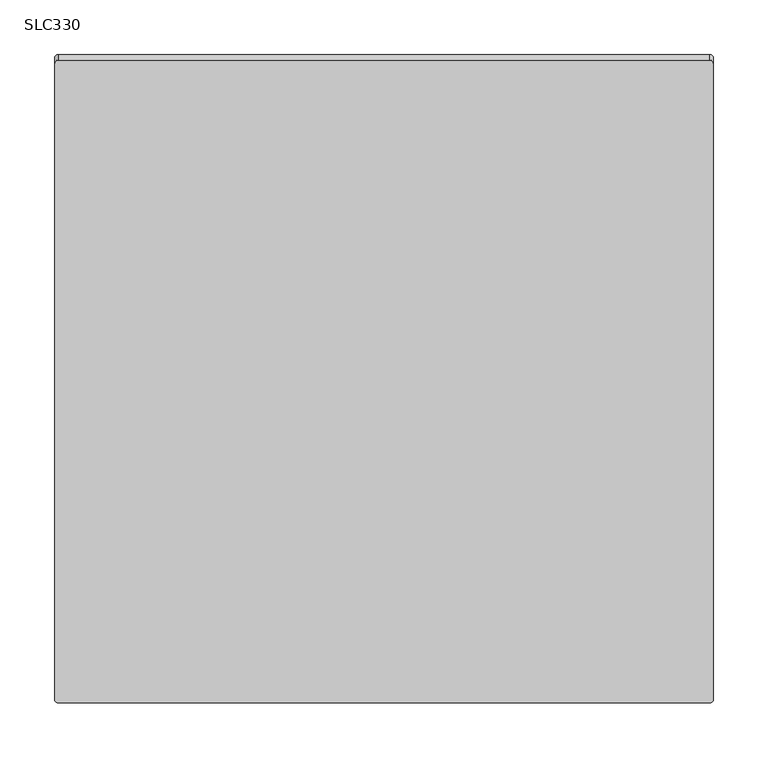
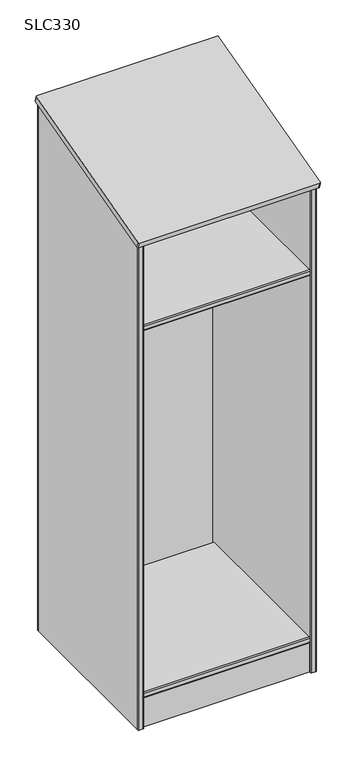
"""IFC4 building model written with IfcOpenShell, lengths in millimetres: furniture geometry, Stance_HC-Lotus-Wardrobe : SLC330."""

import ifcopenshell
import ifcopenshell.guid

model = None  # the IFC model being written
_history = None  # IfcOwnerHistory: only IFC2X3 demands one
_inside = {}  # id of a spatial element -> (the spatial element, [elements in it])
_under = {}  # id of a project, library or spatial element -> (it, [spatial elements below it])
_declared = {}  # id of a project -> (the project, [libraries it declares])
_typed = {}  # id of a type object -> (the type object, [elements of that type])
_made_of = {}  # id of a material, layer set ... -> (it, [elements and type objects made of it])


def new_model(schema):
    """Start an empty IFC model of exactly this schema.

    Asked for "IFC4X3", IfcOpenShell would pick the latest addendum, in which some entities
    have other attributes; the version numbers below select the first issue.
    IFC2X3 requires an IfcOwnerHistory on every rooted entity: one is made here for all.
    """
    global model, _history
    if schema == "IFC4X3":
        model = ifcopenshell.file(schema_version=(4, 3, 0, 0))
    else:
        model = ifcopenshell.file(schema=schema)
    _inside.clear()
    _under.clear()
    _declared.clear()
    _typed.clear()
    _made_of.clear()
    _history = None
    if model.schema == "IFC2X3":
        org = make("IfcOrganization", Name="unknown")
        user = make(
            "IfcPersonAndOrganization",
            ThePerson=make("IfcPerson", FamilyName="unknown"),
            TheOrganization=org,
        )
        app = make(
            "IfcApplication",
            ApplicationDeveloper=org,
            Version="unknown",
            ApplicationFullName="unknown",
            ApplicationIdentifier="unknown",
        )
        _history = make(
            "IfcOwnerHistory",
            OwningUser=user,
            OwningApplication=app,
            ChangeAction="ADDED",
            CreationDate=0,
        )
    return model


def make(cls, **values):
    """One entity of the class cls with the attributes given. An attribute that is None is left unset."""
    return model.create_entity(
        cls, **{name: value for name, value in values.items() if value is not None}
    )


def rooted(cls, **values):
    """An entity with a GlobalId (a new one), such as an element, a storey or a relation."""
    return make(cls, GlobalId=ifcopenshell.guid.new(), OwnerHistory=_history, **values)


def si_unit(unit_type, name, prefix=None):
    """IfcSIUnit, for example si_unit("LENGTHUNIT", "METRE", prefix="MILLI")."""
    return make("IfcSIUnit", UnitType=unit_type, Prefix=prefix, Name=name)


def assignment(units):
    """IfcUnitAssignment: the units of a project."""
    return None if units is None else make("IfcUnitAssignment", Units=units)


def point(xyz):
    """IfcCartesianPoint."""
    return None if xyz is None else make("IfcCartesianPoint", Coordinates=xyz)


def direction(xyz):
    """IfcDirection."""
    return None if xyz is None else make("IfcDirection", DirectionRatios=xyz)


def frame(location, z_axis=None, x_axis=None):
    """IfcAxis2Placement3D, a coordinate frame: its origin and axes. An axis left out is left unset."""
    return make(
        "IfcAxis2Placement3D",
        Location=point(location),
        Axis=direction(z_axis),
        RefDirection=direction(x_axis),
    )


def frame_2d(location, x_axis=None):
    """IfcAxis2Placement2D, a coordinate frame in the plane: its origin and x axis."""
    return make(
        "IfcAxis2Placement2D", Location=point(location), RefDirection=direction(x_axis)
    )


def origin():
    """The frame at (0, 0, 0) with its axes left unset."""
    return frame((0.0, 0.0, 0.0))


def origin_with_axes():
    """The frame at (0, 0, 0) with the z axis (0, 0, 1) and the x axis (1, 0, 0) written out."""
    return frame((0.0, 0.0, 0.0), z_axis=(0.0, 0.0, 1.0), x_axis=(1.0, 0.0, 0.0))


def place(relative_to, where):
    """IfcLocalPlacement: puts the frame where relative to a parent placement (None: the world)."""
    return make(
        "IfcLocalPlacement", PlacementRelTo=relative_to, RelativePlacement=where
    )


def context(
    kind, dimensions, precision=None, world=None, true_north=None, identifier=None
):
    """IfcGeometricRepresentationContext, for example the 3D "Model" context."""
    return make(
        "IfcGeometricRepresentationContext",
        ContextIdentifier=identifier,
        ContextType=kind,
        CoordinateSpaceDimension=dimensions,
        Precision=precision,
        WorldCoordinateSystem=world,
        TrueNorth=true_north,
    )


def project(units=None, contexts=None):
    """IfcProject with its units and contexts."""
    return rooted(
        "IfcProject",
        Name="project",
        RepresentationContexts=contexts,
        UnitsInContext=assignment(units),
    )


def spatial(cls, under=None, at=None, **own):
    """A site, building, storey or space (cls), placed at a placement, below another one or the project."""
    s = rooted(cls, ObjectPlacement=at, **own)
    if under is not None:
        _under.setdefault(under.id(), (under, []))[1].append(s)
    return s


def polyline(points):
    """IfcPolyline through the points."""
    return make("IfcPolyline", Points=[point(p) for p in points])


def circle_curve(where, radius):
    """IfcCircle in the frame where."""
    return make("IfcCircle", Position=where, Radius=radius)


def ellipse_curve(where, semi_axis1, semi_axis2):
    """IfcEllipse in the frame where."""
    return make(
        "IfcEllipse", Position=where, SemiAxis1=semi_axis1, SemiAxis2=semi_axis2
    )


def trimmed(basis, trim1, trim2, sense, master):
    """IfcTrimmedCurve: the piece of a basis curve between two trims."""
    return make(
        "IfcTrimmedCurve",
        BasisCurve=basis,
        Trim1=trim1,
        Trim2=trim2,
        SenseAgreement=sense,
        MasterRepresentation=master,
    )


def segment(curve, same_sense, transition):
    """IfcCompositeCurveSegment."""
    return make(
        "IfcCompositeCurveSegment",
        Transition=transition,
        SameSense=same_sense,
        ParentCurve=curve,
    )


def composite_curve(segments, self_intersect=None):
    """IfcCompositeCurve: segments joined end to end."""
    return make("IfcCompositeCurve", Segments=segments, SelfIntersect=self_intersect)


def outline(outer, holes=None, kind="AREA"):
    """IfcArbitraryClosedProfileDef: a profile drawn as a closed curve; with holes, ...WithVoids."""
    if holes is None:
        return make("IfcArbitraryClosedProfileDef", ProfileType=kind, OuterCurve=outer)
    return make(
        "IfcArbitraryProfileDefWithVoids",
        ProfileType=kind,
        OuterCurve=outer,
        InnerCurves=holes,
    )


def extrude(swept, where, along, depth):
    """IfcExtrudedAreaSolid: the profile swept, set in the frame where, extruded along a direction by depth."""
    return make(
        "IfcExtrudedAreaSolid",
        SweptArea=swept,
        Position=where,
        ExtrudedDirection=direction(along),
        Depth=depth,
    )


def shape(context_of_items, identifier, shape_type, items):
    """IfcShapeRepresentation: the items that make up one representation, for example the "Body"."""
    return make(
        "IfcShapeRepresentation",
        ContextOfItems=context_of_items,
        RepresentationIdentifier=identifier,
        RepresentationType=shape_type,
        Items=items,
    )


def source(mapping_origin, context_of_items, identifier, shape_type, items):
    """IfcRepresentationMap: a shape defined once, which mapped items show again and again."""
    return make(
        "IfcRepresentationMap",
        MappingOrigin=mapping_origin,
        MappedRepresentation=shape(context_of_items, identifier, shape_type, items),
    )


def transform(
    local_origin,
    x_axis=None,
    y_axis=None,
    z_axis=None,
    scale=None,
    scale2=None,
    scale3=None,
    uniform=True,
):
    """IfcCartesianTransformationOperator3D, or its non-uniform kind. x_axis, y_axis, z_axis: its Axis1, 2, 3."""
    if uniform:
        return make(
            "IfcCartesianTransformationOperator3D",
            Axis1=direction(x_axis),
            Axis2=direction(y_axis),
            LocalOrigin=point(local_origin),
            Scale=scale,
            Axis3=direction(z_axis),
        )
    return make(
        "IfcCartesianTransformationOperator3DnonUniform",
        Axis1=direction(x_axis),
        Axis2=direction(y_axis),
        LocalOrigin=point(local_origin),
        Scale=scale,
        Axis3=direction(z_axis),
        Scale2=scale2,
        Scale3=scale3,
    )


def mapped(mapping_source, mapping_target):
    """IfcMappedItem: shows the shape of a source again, moved by a transform."""
    return make(
        "IfcMappedItem", MappingSource=mapping_source, MappingTarget=mapping_target
    )


def made_of(thing, what):
    """Note that an element or type object is made of a material, layer set ...; save() writes the relation."""
    if what is not None:
        _made_of.setdefault(what.id(), (what, []))[1].append(thing)
    return thing


def element(
    cls,
    number,
    at=None,
    inside=None,
    cuts=None,
    type_object=None,
    material=None,
    context=None,
    identifier="Body",
    shape_type=None,
    held_by="IfcProductDefinitionShape",
    body=None,
    shapes=None,
    **own,
):
    """One element of the class cls, such as IfcWall. Its Tag is "e" and its number.

    at: its placement. inside: the storey or other place that contains it. cuts: it is an
    opening in that element (IfcRelVoidsElement). A single representation is given by context,
    identifier, shape_type and body (its items); several are given by shapes. held_by: the class
    of the entity that holds the representations. save() writes the other relations.
    """
    e = rooted(cls, Tag="e%d" % number, ObjectPlacement=at, **own)
    if body is not None:
        shapes = [shape(context, identifier, shape_type, body)]
    if shapes is not None:
        e.Representation = make(held_by, Representations=shapes)
    if inside is not None:
        _inside.setdefault(inside.id(), (inside, []))[1].append(e)
    if cuts is not None:
        rooted(
            "IfcRelVoidsElement", RelatingBuildingElement=cuts, RelatedOpeningElement=e
        )
    if type_object is not None:
        _typed.setdefault(type_object.id(), (type_object, []))[1].append(e)
    return made_of(e, material)


def aggregate(whole, parts):
    """IfcRelAggregates: a whole, such as a stair, and the parts it consists of."""
    return rooted("IfcRelAggregates", RelatingObject=whole, RelatedObjects=parts)


def save(model, path):
    """Write the relations noted so far, then the file.

    IfcRelAggregates (storeys below a building ...), IfcRelContainedInSpatialStructure (elements
    in a storey), IfcRelDefinesByType, IfcRelAssociatesMaterial and IfcRelDeclares: one each for
    every whole, place, type object, material and project.
    """
    for whole, parts in _under.values():
        aggregate(whole, parts)
    for where, things in _inside.values():
        rooted(
            "IfcRelContainedInSpatialStructure",
            RelatedElements=things,
            RelatingStructure=where,
        )
    for kind, things in _typed.values():
        rooted("IfcRelDefinesByType", RelatedObjects=things, RelatingType=kind)
    for what, things in _made_of.values():
        rooted("IfcRelAssociatesMaterial", RelatedObjects=things, RelatingMaterial=what)
    for by, libraries in _declared.values():
        rooted("IfcRelDeclares", RelatingContext=by, RelatedDefinitions=libraries)
    model.write(path)


def plane_surface(at):
    """IfcPlane: the flat surface through the origin of the frame at, square to its z axis."""
    return make("IfcPlane", Position=at)


def cylinder_surface(at, radius):
    """IfcCylindricalSurface: all points at the distance radius from the z axis of the frame at."""
    return make("IfcCylindricalSurface", Position=at, Radius=radius)


def advanced_brep(points, edges, surfaces, faces):
    """IfcAdvancedBrep: a solid bounded by faces that lie on surfaces and meet in shared edges.

    An edge is (start, end): straight between two places in points (the first is 0);
    or (start, end, curve); or (start, end, curve, False) where it runs against its curve.
    A face is (place in surfaces, loops), or (place, loops, False) where it looks against
    its surface's normal. A loop lists edges by number (the first is 1), with a minus sign
    where the edge is run from its end to its start. The first loop is the outer one.
    """
    corners = [point(p) for p in points]
    vertices = [make("IfcVertexPoint", VertexGeometry=c) for c in corners]
    made = []
    for start, end, *more in edges:
        made.append(
            make(
                "IfcEdgeCurve",
                EdgeStart=vertices[start],
                EdgeEnd=vertices[end],
                EdgeGeometry=more[0] if more else make("IfcPolyline", Points=[corners[start], corners[end]]),
                SameSense=more[1] if len(more) > 1 else True,
            )
        )
    hull = []
    for where, loops, *sense in faces:
        bounds = []
        for j, loop in enumerate(loops):
            ring = [make("IfcOrientedEdge", EdgeElement=made[abs(k) - 1], Orientation=k > 0) for k in loop]
            bounds.append(
                make(
                    "IfcFaceOuterBound" if j == 0 else "IfcFaceBound",
                    Bound=make("IfcEdgeLoop", EdgeList=ring),
                    Orientation=True,
                )
            )
        hull.append(make("IfcAdvancedFace", Bounds=bounds, FaceSurface=surfaces[where], SameSense=sense[0] if sense else True))
    return make("IfcAdvancedBrep", Outer=make("IfcClosedShell", CfsFaces=hull))


def slc330_f4d9fcbc(model_context):
    return source(origin(), model_context, "Body", "SolidModel", [
        extrude(outline(composite_curve([segment(polyline([(-571.5, 1403.350003), (-25.4000008, 1403.350003), (-25.4000008, 1384.300003), (-571.5, 1384.300003)]), True, "CONTINUOUS"), segment(trimmed(circle_curve(frame_2d((-571.5, 1387.475003)), 3.175), [point((-571.5, 1384.300003))], [point((-574.675, 1387.475003))], False, "CARTESIAN"), True, "CONTINUOUS"), segment(polyline([(-574.675, 1387.475003), (-574.675, 1400.175003)]), True, "CONTINUOUS"), segment(trimmed(circle_curve(frame_2d((-571.5, 1400.175003)), 3.175), [point((-574.675, 1400.175003))], [point((-571.5, 1403.350003))], False, "CARTESIAN"), True, "CONTINUOUS")], self_intersect=False)), frame((25.4000008, 0.0, 0.0), z_axis=(1.0, 0.0, 0.0), x_axis=(0.0, 1.0, 0.0)), (0.0, 0.0, 1.0), 552.4499871),
        extrude(outline(composite_curve([segment(polyline([(-571.5, 120.650003), (-25.4000008, 120.650003), (-25.4000008, 101.600003), (-571.5, 101.600003)]), True, "CONTINUOUS"), segment(trimmed(circle_curve(frame_2d((-571.5, 104.775003)), 3.175), [point((-571.5, 101.600003))], [point((-574.675, 104.775003))], False, "CARTESIAN"), True, "CONTINUOUS"), segment(polyline([(-574.675, 104.775003), (-574.675, 117.475003)]), True, "CONTINUOUS"), segment(trimmed(circle_curve(frame_2d((-571.5, 117.475003)), 3.175), [point((-574.675, 117.475003))], [point((-571.5, 120.650003))], False, "CARTESIAN"), True, "CONTINUOUS")], self_intersect=False)), frame((25.4000008, 0.0, 0.0), z_axis=(1.0, 0.0, 0.0), x_axis=(0.0, 1.0, 0.0)), (0.0, 0.0, 1.0), 552.4499871),
        extrude(outline(composite_curve([segment(polyline([(-301.1445411, 1296.1106241), (-301.1445411, 1384.300003), (-297.9695411, 1384.300003), (-297.9695411, 1296.1106241)]), True, "CONTINUOUS"), segment(trimmed(circle_curve(frame_2d((-313.8444964, 1296.1106241)), 15.8749554), [point((-297.9695411, 1296.1106241))], [point((-327.8613377, 1288.6579488))], False, "CARTESIAN"), True, "CONTINUOUS"), segment(polyline([(-327.8613377, 1288.6579488), (-335.0239186, 1302.1291863)]), True, "CONTINUOUS"), segment(trimmed(circle_curve(frame_2d((-343.428659, 1297.6604333)), 9.5188977), [point((-335.0239186, 1302.1291863))], [point((-352.9380246, 1298.0863196))], True, "CARTESIAN"), True, "CONTINUOUS"), segment(polyline([(-352.9380246, 1298.0863196), (-353.4748243, 1286.1004361), (-356.6530068, 1286.1004361), (-356.1098452, 1298.2283727)]), True, "CONTINUOUS"), segment(trimmed(circle_curve(frame_2d((-343.428659, 1297.6604333)), 12.6938977), [point((-356.1098452, 1298.2283727))], [point((-332.2205425, 1303.6197256))], False, "CARTESIAN"), True, "CONTINUOUS"), segment(polyline([(-332.2205425, 1303.6197256), (-325.0579615, 1290.148488)]), True, "CONTINUOUS"), segment(trimmed(circle_curve(frame_2d((-313.8444964, 1296.1106241)), 12.6999554), [point((-325.0579615, 1290.148488))], [point((-301.1445411, 1296.1106241))], True, "CARTESIAN"), True, "CONTINUOUS")], self_intersect=False)), frame((25.4000008, 0.0, 0.0), z_axis=(1.0, 0.0, 0.0), x_axis=(0.0, 1.0, 0.0)), (0.0, 0.0, 1.0), 552.4499992),
        advanced_brep(
        [(22.2250008, -3.1750001, 0.0), (25.4000008, -6.3500001, 0.0), (25.4000008, -577.8499879, 0.0), (22.2250008, -581.0249879, 0.0), (9.5250002, -581.0249879, 0.0), (6.3500002, -577.8499879, 0.0), (6.3500002, -6.3500001, 0.0), (9.5250002, -3.1750001, 0.0), (22.2250008, -3.1750001, 1847.9779876), (25.4000008, -6.3500001, 1847.1294883), (25.4000008, -577.8499879, 1694.3996213), (22.2250008, -581.0249879, 1693.5511221), (9.5250002, -581.0249879, 1693.5511221), (6.3500002, -577.8499879, 1694.3996213), (6.3500002, -6.3500001, 1847.1294883), (9.5250002, -3.1750001, 1847.9779876)],
        [
            (0, 1, circle_curve(frame((22.2250008, -6.3500001, 0.0), z_axis=(0.0, 0.0, -1.0), x_axis=(1.0, 0.0, 0.0)), 3.175)),
            (1, 2),
            (2, 3, circle_curve(frame((22.2250008, -577.8499879, 0.0), z_axis=(0.0, 0.0, -1.0), x_axis=(1.0, 0.0, 0.0)), 3.175)),
            (3, 4),
            (4, 5, circle_curve(frame((9.5250002, -577.8499879, 0.0), z_axis=(0.0, 0.0, -1.0), x_axis=(1.0, 0.0, 0.0)), 3.175)),
            (5, 6),
            (6, 7, circle_curve(frame((9.5250002, -6.3500001, 0.0), z_axis=(0.0, 0.0, -1.0), x_axis=(1.0, 0.0, 0.0)), 3.175)),
            (7, 0),
            (0, 8),
            (8, 9, ellipse_curve(frame((22.2250008, -6.3500001, 1847.1294883), z_axis=(0.0, 0.2581832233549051, -0.9660959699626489), x_axis=(0.0, 0.9660959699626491, 0.2581832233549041)), 3.286423, 3.175)),
            (9, 1),
            (9, 10),
            (10, 2),
            (10, 11, ellipse_curve(frame((22.2250008, -577.8499879, 1694.3996213), z_axis=(0.0, 0.2581832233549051, -0.9660959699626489), x_axis=(0.0, 0.9660959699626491, 0.2581832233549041)), 3.286423, 3.175)),
            (11, 3),
            (11, 12),
            (12, 4),
            (12, 13, ellipse_curve(frame((9.5250002, -577.8499879, 1694.3996213), z_axis=(0.0, 0.2581832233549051, -0.9660959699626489), x_axis=(0.0, 0.9660959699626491, 0.2581832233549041)), 3.286423, 3.175)),
            (13, 5),
            (13, 14),
            (14, 6),
            (14, 15, ellipse_curve(frame((9.5250002, -6.3500001, 1847.1294883), z_axis=(0.0, 0.2581832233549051, -0.9660959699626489), x_axis=(0.0, 0.9660959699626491, 0.2581832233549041)), 3.286423, 3.175)),
            (15, 7),
            (15, 8),
        ],
        [
            plane_surface(frame((6.3500002, -3.1750001, 0.0), z_axis=(0.0, 0.0, -1.0), x_axis=(1.0, 0.0, 0.0))),
            cylinder_surface(frame((22.2250008, -6.3500001, 0.0), z_axis=(0.0, 0.0, 1.0), x_axis=(1.0, 0.0, 0.0)), 3.175),
            plane_surface(frame((25.4000008, -577.8499879, 1866.9), z_axis=(1.0, 0.0, 0.0), x_axis=(0.0, 0.0, -1.0))),
            cylinder_surface(frame((22.2250008, -577.8499879, 0.0), z_axis=(0.0, 0.0, 1.0), x_axis=(1.0, 0.0, 0.0)), 3.175),
            plane_surface(frame((9.5250002, -581.0249879, 1866.9), z_axis=(0.0, -1.0, 0.0), x_axis=(0.0, 0.0, -1.0))),
            cylinder_surface(frame((9.5250002, -577.8499879, 0.0), z_axis=(0.0, 0.0, 1.0), x_axis=(1.0, 0.0, 0.0)), 3.175),
            plane_surface(frame((6.3500002, -6.3500001, 1866.9), z_axis=(-1.0, 0.0, 0.0), x_axis=(0.0, 0.0, -1.0))),
            cylinder_surface(frame((9.5250002, -6.3500001, 0.0), z_axis=(0.0, 0.0, 1.0), x_axis=(1.0, 0.0, 0.0)), 3.175),
            plane_surface(frame((22.2250008, -3.1750001, 1866.9), z_axis=(0.0, 1.0, 0.0), x_axis=(0.0, 0.0, -1.0))),
            plane_surface(frame((603.25, -596.9, 1689.3086224), z_axis=(0.0, -0.2581832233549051, 0.9660959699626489), x_axis=(-1.0, 0.0, 0.0))),
        ],
        [
            (0, [[1, 2, 3, 4, 5, 6, 7, 8]]),
            (1, [[-1, 9, 10, 11]]),
            (2, [[-2, -11, 12, 13]]),
            (3, [[-3, -13, 14, 15]]),
            (4, [[-4, -15, 16, 17]]),
            (5, [[-5, -17, 18, 19]]),
            (6, [[-6, -19, 20, 21]]),
            (7, [[-7, -21, 22, 23]]),
            (8, [[-8, -23, 24, -9]]),
            (9, [[-10, -24, -22, -20, -18, -16, -14, -12]]),
        ],
    ),
        advanced_brep(
        [(581.025, -3.1750001, 0.0), (593.7250006, -3.1750001, 0.0), (596.9000006, -6.3500001, 0.0), (596.9000006, -577.8499879, 0.0), (593.7250006, -581.0249879, 0.0), (581.025, -581.0249879, 0.0), (577.85, -577.8499879, 0.0), (577.85, -6.3500001, 0.0), (581.025, -3.1750001, 1847.9779876), (593.7250006, -3.1750001, 1847.9779876), (596.9000006, -6.3500001, 1847.1294883), (596.9000006, -577.8499879, 1694.3996213), (593.7250006, -581.0249879, 1693.5511221), (581.025, -581.0249879, 1693.5511221), (577.85, -577.8499879, 1694.3996213), (577.85, -6.3500001, 1847.1294883)],
        [
            (0, 1),
            (1, 2, circle_curve(frame((593.7250006, -6.3500001, 0.0), z_axis=(0.0, 0.0, -1.0), x_axis=(1.0, 0.0, 0.0)), 3.175)),
            (2, 3),
            (3, 4, circle_curve(frame((593.7250006, -577.8499879, 0.0), z_axis=(0.0, 0.0, -1.0), x_axis=(1.0, 0.0, 0.0)), 3.175)),
            (4, 5),
            (5, 6, circle_curve(frame((581.025, -577.8499879, 0.0), z_axis=(0.0, 0.0, -1.0), x_axis=(1.0, 0.0, 0.0)), 3.175)),
            (6, 7),
            (7, 0, circle_curve(frame((581.025, -6.3500001, 0.0), z_axis=(0.0, 0.0, -1.0), x_axis=(1.0, 0.0, 0.0)), 3.175)),
            (0, 8),
            (8, 9),
            (9, 1),
            (9, 10, ellipse_curve(frame((593.7250006, -6.3500001, 1847.1294883), z_axis=(0.0, 0.2581832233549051, -0.9660959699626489), x_axis=(0.0, 0.9660959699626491, 0.2581832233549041)), 3.286423, 3.175)),
            (10, 2),
            (10, 11),
            (11, 3),
            (11, 12, ellipse_curve(frame((593.7250006, -577.8499879, 1694.3996213), z_axis=(0.0, 0.2581832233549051, -0.9660959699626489), x_axis=(0.0, 0.9660959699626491, 0.2581832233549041)), 3.286423, 3.175)),
            (12, 4),
            (12, 13),
            (13, 5),
            (13, 14, ellipse_curve(frame((581.025, -577.8499879, 1694.3996213), z_axis=(0.0, 0.2581832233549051, -0.9660959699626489), x_axis=(0.0, 0.9660959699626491, 0.2581832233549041)), 3.286423, 3.175)),
            (14, 6),
            (14, 15),
            (15, 7),
            (15, 8, ellipse_curve(frame((581.025, -6.3500001, 1847.1294883), z_axis=(0.0, 0.2581832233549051, -0.9660959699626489), x_axis=(0.0, 0.9660959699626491, 0.2581832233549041)), 3.286423, 3.175)),
        ],
        [
            plane_surface(frame((6.3500002, -3.1750001, 0.0), z_axis=(0.0, 0.0, -1.0), x_axis=(1.0, 0.0, 0.0))),
            plane_surface(frame((593.7250006, -3.1750001, 1866.9), z_axis=(0.0, 1.0, 0.0), x_axis=(0.0, 0.0, -1.0))),
            cylinder_surface(frame((593.7250006, -6.3500001, 0.0), z_axis=(0.0, 0.0, 1.0), x_axis=(1.0, 0.0, 0.0)), 3.175),
            plane_surface(frame((596.9000006, -577.8499879, 1866.9), z_axis=(1.0, 0.0, 0.0), x_axis=(0.0, 0.0, -1.0))),
            cylinder_surface(frame((593.7250006, -577.8499879, 0.0), z_axis=(0.0, 0.0, 1.0), x_axis=(1.0, 0.0, 0.0)), 3.175),
            plane_surface(frame((581.025, -581.0249879, 1866.9), z_axis=(0.0, -1.0, 0.0), x_axis=(0.0, 0.0, -1.0))),
            cylinder_surface(frame((581.025, -577.8499879, 0.0), z_axis=(0.0, 0.0, 1.0), x_axis=(1.0, 0.0, 0.0)), 3.175),
            plane_surface(frame((577.85, -6.3500001, 1866.9), z_axis=(-1.0, 0.0, 0.0), x_axis=(0.0, 0.0, -1.0))),
            cylinder_surface(frame((581.025, -6.3500001, 0.0), z_axis=(0.0, 0.0, 1.0), x_axis=(1.0, 0.0, 0.0)), 3.175),
            plane_surface(frame((603.25, -596.9, 1689.3086224), z_axis=(0.0, -0.2581832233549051, 0.9660959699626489), x_axis=(-1.0, 0.0, 0.0))),
        ],
        [
            (0, [[1, 2, 3, 4, 5, 6, 7, 8]]),
            (1, [[-1, 9, 10, 11]]),
            (2, [[-2, -11, 12, 13]]),
            (3, [[-3, -13, 14, 15]]),
            (4, [[-4, -15, 16, 17]]),
            (5, [[-5, -17, 18, 19]]),
            (6, [[-6, -19, 20, 21]]),
            (7, [[-7, -21, 22, 23]]),
            (8, [[-8, -23, 24, -9]]),
            (9, [[-10, -24, -22, -20, -18, -16, -14, -12]]),
        ],
    ),
        extrude(outline(composite_curve([segment(trimmed(circle_curve(frame_2d((0.0, -3.175)), 3.175), [point((0.0, -6.35))], [point((-3.175, -3.175))], False, "CARTESIAN"), True, "CONTINUOUS"), segment(polyline([(-3.175, -3.175), (-3.175, 600.0751694)]), True, "CONTINUOUS"), segment(trimmed(circle_curve(frame_2d((0.0, 600.0751694)), 3.175), [point((-3.175, 600.0751694))], [point((0.0, 603.2501693))], False, "CARTESIAN"), True, "CONTINUOUS"), segment(polyline([(0.0, 603.2501693), (596.9, 603.2501693)]), True, "CONTINUOUS"), segment(trimmed(circle_curve(frame_2d((596.9, 600.0751694)), 3.175), [point((596.9, 603.2501693))], [point((600.075, 600.0751694))], False, "CARTESIAN"), True, "CONTINUOUS"), segment(polyline([(600.075, 600.0751694), (600.075, -3.175)]), True, "CONTINUOUS"), segment(trimmed(circle_curve(frame_2d((596.9, -3.175)), 3.175), [point((600.075, -3.175))], [point((596.9, -6.35))], False, "CARTESIAN"), True, "CONTINUOUS"), segment(polyline([(596.9, -6.35), (0.0, -6.35)]), True, "CONTINUOUS")], self_intersect=False)), frame((600.075, -5.2152013, 1847.4204184), z_axis=(0.0, -0.25814463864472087, 0.9661062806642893), x_axis=(-1.0, 0.0, 0.0)), (0.0, 0.0, 1.0), 19.2428064),
        extrude(outline(polyline([(25.4000008, -554.0375), (577.85, -554.0375), (577.85, -573.0875), (25.4000008, -573.0875), (25.4000008, -554.0375)])), origin_with_axes(), (0.0, 0.0, 1.0), 101.600003),
        extrude(outline(polyline([(577.85, -19.05), (25.4000008, -19.05), (25.4000008, 0.0), (577.85, 0.0), (577.85, -19.05)])), origin_with_axes(), (0.0, 0.0, 1.0), 1847.8500121),
    ])


if __name__ == "__main__":
    model = new_model("IFC4")
    model_context = context("Model", 3, world=origin())
    ifc_project = project(units=[si_unit("LENGTHUNIT", "METRE", prefix="MILLI")], contexts=[model_context])
    site = spatial("IfcSite", under=ifc_project)
    building = spatial("IfcBuilding", under=site)
    placement = place(None, origin())
    slc330_shape = slc330_f4d9fcbc(model_context)
    element("IfcFurniture", 1, ObjectType="Stance_HC-Lotus-Wardrobe : SLC330", at=placement, inside=building, context=model_context, shape_type="MappedRepresentation", body=[
        mapped(slc330_shape, transform((0.0, 0.0, 0.0), x_axis=(1.0, 0.0, 0.0), y_axis=(0.0, 1.0, 0.0), z_axis=(0.0, 0.0, 1.0))),
    ])
    save(model, "model.ifc")
